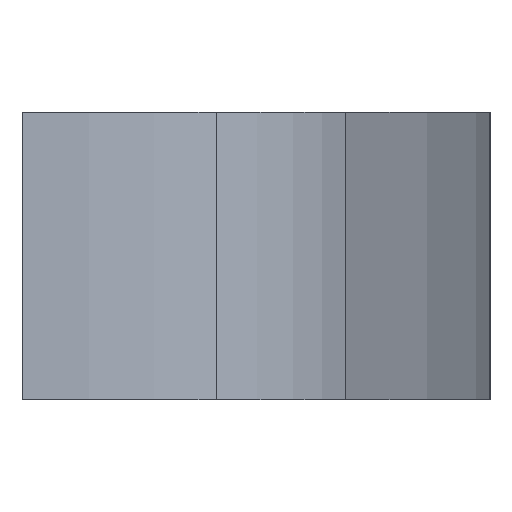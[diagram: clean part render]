
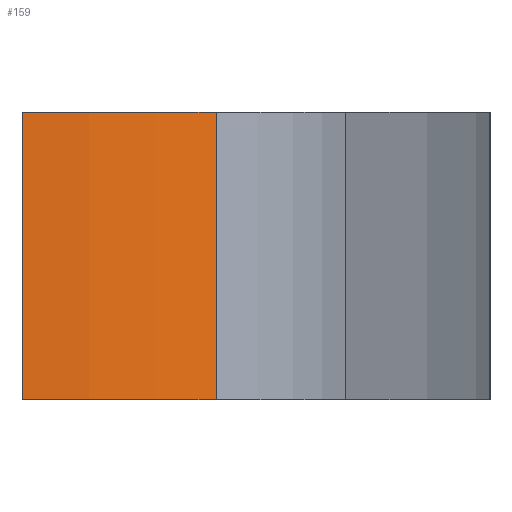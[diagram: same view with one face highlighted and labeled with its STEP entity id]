
A CAD part, left-side view. The second image highlights one B-rep face of the part: STEP entity #159.
In plain terms, the highlighted cylindrical face has radius 29 mm (diameter 58 mm), a partial arc.
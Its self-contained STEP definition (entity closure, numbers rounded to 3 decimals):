
#159 = ADVANCED_FACE( '', ( #405 ), #406, .T. );
#191 = VERTEX_POINT( '', #439 );
#209 = VERTEX_POINT( '', #459 );
#229 = EDGE_CURVE( '', #249, #191, #479, .T. );
#249 = VERTEX_POINT( '', #501 );
#265 = EDGE_CURVE( '', #191, #209, #519, .T. );
#269 = EDGE_CURVE( '', #339, #209, #525, .T. );
#281 = EDGE_CURVE( '', #249, #339, #537, .T. );
#339 = VERTEX_POINT( '', #604 );
#405 = FACE_OUTER_BOUND( '', #669, .T. );
#406 = CYLINDRICAL_SURFACE( '', #670, 29. );
#439 = CARTESIAN_POINT( '', ( -20., 0., -10. ) );
#459 = CARTESIAN_POINT( '', ( -16.636, -13.489, -10. ) );
#479 = LINE( '', #768, #769 );
#501 = CARTESIAN_POINT( '', ( -20., 0., 10. ) );
#519 = CIRCLE( '', #831, 29. );
#525 = LINE( '', #838, #839 );
#537 = CIRCLE( '', #855, 29. );
#604 = CARTESIAN_POINT( '', ( -16.636, -13.489, 10. ) );
#669 = EDGE_LOOP( '', ( #1010, #1011, #1012, #1013 ) );
#670 = AXIS2_PLACEMENT_3D( '', #1014, #1015, #1016 );
#768 = CARTESIAN_POINT( '', ( -20., 0., 10. ) );
#769 = VECTOR( '', #1077, 1. );
#831 = AXIS2_PLACEMENT_3D( '', #1122, #1123, #1124 );
#838 = CARTESIAN_POINT( '', ( -16.636, -13.489, 10. ) );
#839 = VECTOR( '', #1135, 1. );
#855 = AXIS2_PLACEMENT_3D( '', #1140, #1141, #1142 );
#1010 = ORIENTED_EDGE( '', *, *, #265, .T. );
#1011 = ORIENTED_EDGE( '', *, *, #269, .F. );
#1012 = ORIENTED_EDGE( '', *, *, #281, .F. );
#1013 = ORIENTED_EDGE( '', *, *, #229, .T. );
#1014 = CARTESIAN_POINT( '', ( 9., 0.068, 10. ) );
#1015 = DIRECTION( '', ( 0., 0., 1. ) );
#1016 = DIRECTION( '', ( -1., -0.002, 0. ) );
#1077 = DIRECTION( '', ( 0., 0., -1. ) );
#1122 = CARTESIAN_POINT( '', ( 9., 0.068, -10. ) );
#1123 = DIRECTION( '', ( 0., 0., 1. ) );
#1124 = DIRECTION( '', ( -1., -0.002, 0. ) );
#1135 = DIRECTION( '', ( 0., 0., -1. ) );
#1140 = CARTESIAN_POINT( '', ( 9., 0.068, 10. ) );
#1141 = DIRECTION( '', ( 0., 0., 1. ) );
#1142 = DIRECTION( '', ( -1., -0.002, 0. ) );
